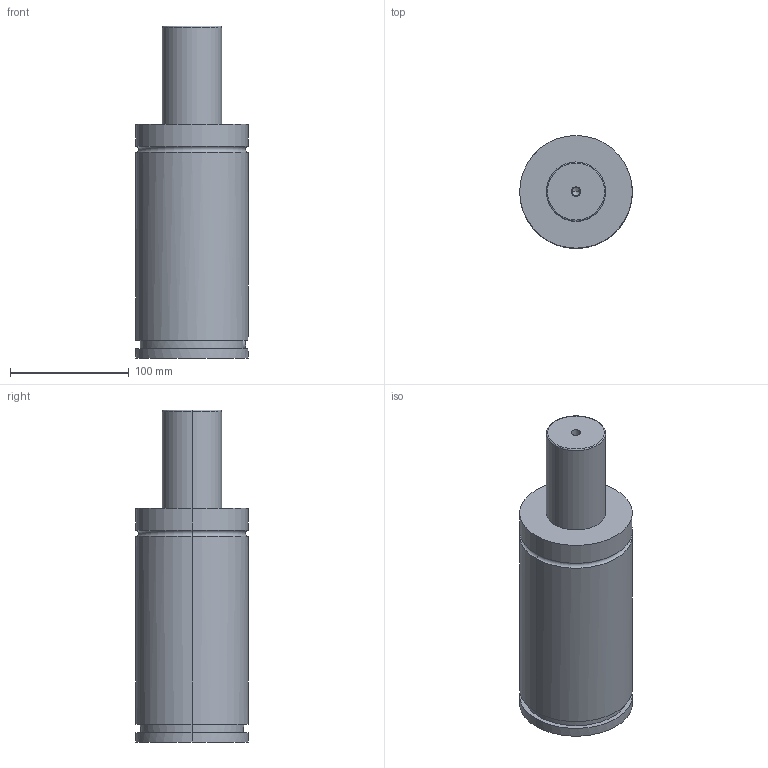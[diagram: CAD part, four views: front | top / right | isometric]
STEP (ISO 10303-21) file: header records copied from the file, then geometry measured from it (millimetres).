
FILE_DESCRIPTION(/* description */ (''),/* implementation_level */ '2;1');
FILE_NAME(/* name */ '3d_gse95-80_03862_r00.stp',/* time_stamp */ '2011-01-10T14:15:18+09:00',/* author */ ('MISUMI'),/* organization */ (''),/* preprocessor_version */ 'ST-DEVELOPER v11',/* originating_system */ 'UGS - NX 5.0',/* authorisation */ '');
FILE_SCHEMA (('CONFIG_CONTROL_DESIGN'));
Length unit declared in the file: millimetre
Products named in the file (1): 3d_gse95-80_03862_r00
Bounding box: 95 x 95 x 280 mm (x, y, z)
Volume: 1543756.9 mm3; surface area: 91299.9 mm2
Topology: 1 solids, 1 shells, 75 faces, 161 edges, 103 vertices
Faces by surface type: cylinder 34, plane 27, cone 10, torus 4
Entity records: 2145 total; most frequent: DIRECTION 393, CARTESIAN_POINT 360, ORIENTED_EDGE 318, AXIS2_PLACEMENT_3D 164, EDGE_CURVE 159, VERTEX_POINT 103, EDGE_LOOP 92, CIRCLE 88
